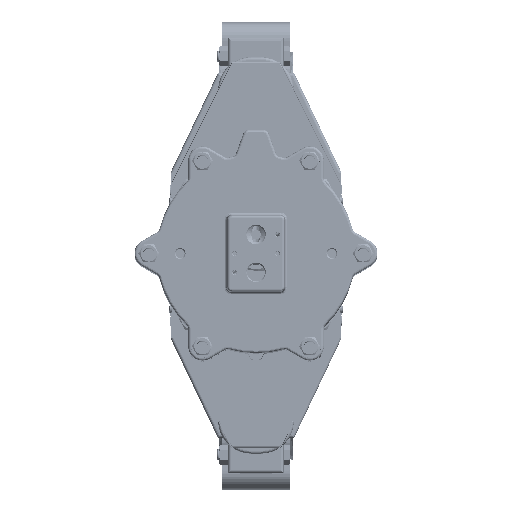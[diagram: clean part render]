
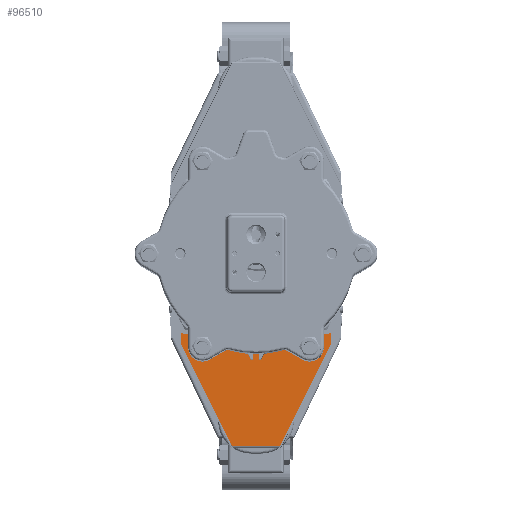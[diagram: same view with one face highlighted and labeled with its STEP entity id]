
A CAD part, top view. The second image highlights one B-rep face of the part: STEP entity #96510.
In plain terms, the highlighted planar face has unit normal (0, 0, 1).
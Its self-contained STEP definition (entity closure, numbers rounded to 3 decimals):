
#6747=PLANE('',#105981);
#12068=FACE_OUTER_BOUND('',#18194,.T.);
#18194=EDGE_LOOP('',(#86615,#86616,#86617,#86618,#86619,#86620));
#30762=LINE('',#182327,#37018);
#30765=LINE('',#182333,#37021);
#30788=LINE('',#182400,#37044);
#30792=LINE('',#182408,#37048);
#30794=LINE('',#182411,#37050);
#30795=LINE('',#182413,#37051);
#37018=VECTOR('',#130954,10.);
#37021=VECTOR('',#130959,10.);
#37044=VECTOR('',#131022,10.);
#37048=VECTOR('',#131030,10.);
#37050=VECTOR('',#131034,10.);
#37051=VECTOR('',#131037,10.);
#45792=VERTEX_POINT('',#182289);
#45804=VERTEX_POINT('',#182326);
#45806=VERTEX_POINT('',#182332);
#45819=VERTEX_POINT('',#182386);
#45822=VERTEX_POINT('',#182398);
#45824=VERTEX_POINT('',#182407);
#59405=EDGE_CURVE('',#45804,#45792,#30762,.T.);
#59408=EDGE_CURVE('',#45806,#45804,#30765,.T.);
#59439=EDGE_CURVE('',#45822,#45819,#30788,.T.);
#59443=EDGE_CURVE('',#45806,#45824,#30792,.T.);
#59445=EDGE_CURVE('',#45824,#45822,#30794,.T.);
#59446=EDGE_CURVE('',#45819,#45792,#30795,.T.);
#86615=ORIENTED_EDGE('',*,*,#59446,.F.);
#86616=ORIENTED_EDGE('',*,*,#59439,.F.);
#86617=ORIENTED_EDGE('',*,*,#59445,.F.);
#86618=ORIENTED_EDGE('',*,*,#59443,.F.);
#86619=ORIENTED_EDGE('',*,*,#59408,.T.);
#86620=ORIENTED_EDGE('',*,*,#59405,.T.);
#96510=ADVANCED_FACE('',(#12068),#6747,.T.);
#105981=AXIS2_PLACEMENT_3D('',#182412,#131035,#131036);
#130954=DIRECTION('',(0.446,-0.895,0.));
#130959=DIRECTION('',(0.,-1.,0.));
#131022=DIRECTION('',(-0.446,-0.895,0.));
#131030=DIRECTION('',(1.,0.,0.));
#131034=DIRECTION('',(0.,-1.,0.));
#131035=DIRECTION('center_axis',(0.,0.,
1.));
#131036=DIRECTION('ref_axis',(1.,0.,0.));
#131037=DIRECTION('',(-1.,0.,0.));
#182289=CARTESIAN_POINT('',(-25.005,-201.976,782.2));
#182326=CARTESIAN_POINT('',(-79.5,-92.676,782.2));
#182327=CARTESIAN_POINT('',(-24.656,-202.676,782.2));
#182332=CARTESIAN_POINT('',(-79.5,-80.676,782.2));
#182333=CARTESIAN_POINT('',(-79.5,-92.676,782.2));
#182386=CARTESIAN_POINT('',(25.005,-201.976,782.2));
#182398=CARTESIAN_POINT('',(79.5,-92.676,782.2));
#182400=CARTESIAN_POINT('',(24.656,-202.676,782.2));
#182407=CARTESIAN_POINT('',(79.5,-80.676,782.2));
#182408=CARTESIAN_POINT('',(79.5,-80.676,782.2));
#182411=CARTESIAN_POINT('',(79.5,-92.676,782.2));
#182412=CARTESIAN_POINT('Origin',(29.964,-132.625,782.2));
#182413=CARTESIAN_POINT('',(-14.982,-201.976,782.2));
